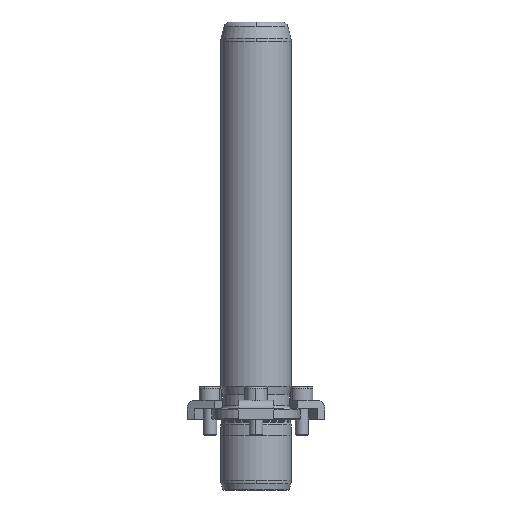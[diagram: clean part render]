
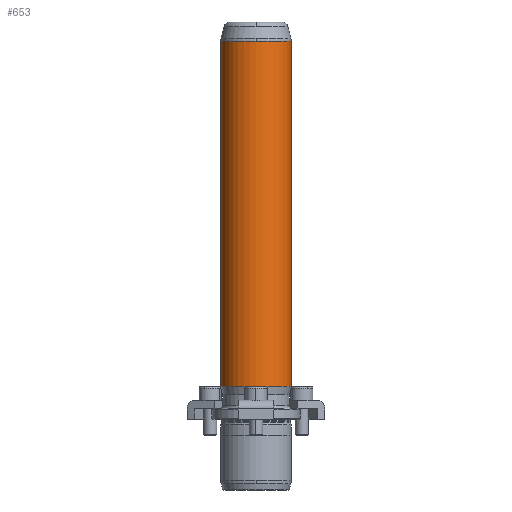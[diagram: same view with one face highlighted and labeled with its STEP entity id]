
A CAD part, front view. The second image highlights one B-rep face of the part: STEP entity #653.
In plain terms, the highlighted cylindrical face has radius 16 mm (diameter 32 mm), a partial arc.
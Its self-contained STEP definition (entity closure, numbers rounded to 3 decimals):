
#566=CARTESIAN_POINT('',(0.0,-16.,171.342));
#567=VERTEX_POINT('',#566);
#594=CARTESIAN_POINT('',(-16.0,0.,171.342));
#595=VERTEX_POINT('',#594);
#603=CARTESIAN_POINT('',(0.0,0.,171.342));
#604=DIRECTION('',(0.0,0.0,1.0));
#605=DIRECTION('',(1.0,0.0,0.0));
#606=AXIS2_PLACEMENT_3D('',#603,#604,#605);
#607=CIRCLE('',#606,16.0);
#608=EDGE_CURVE('',#595,#567,#607,.T.);
#613=CARTESIAN_POINT('',(0.0,0.,93.171));
#614=DIRECTION('',(0.0,0.,1.0));
#615=DIRECTION('',(1.0,0.0,0.0));
#616=AXIS2_PLACEMENT_3D('',#613,#614,#615);
#617=CYLINDRICAL_SURFACE('',#616,16.0);
#618=CARTESIAN_POINT('',(16.0,0.,171.342));
#619=VERTEX_POINT('',#618);
#620=CARTESIAN_POINT('',(16.0,0.,15.0));
#621=VERTEX_POINT('',#620);
#622=CARTESIAN_POINT('',(16.0,0.,171.342));
#623=DIRECTION('',(0.0,0.0,-1.0));
#624=VECTOR('',#623,156.342);
#625=LINE('',#622,#624);
#626=EDGE_CURVE('',#619,#621,#625,.T.);
#627=ORIENTED_EDGE('',*,*,#626,.F.);
#628=CARTESIAN_POINT('',(0.0,0.,171.342));
#629=DIRECTION('',(0.0,0.0,1.0));
#630=DIRECTION('',(1.0,0.0,0.0));
#631=AXIS2_PLACEMENT_3D('',#628,#629,#630);
#632=CIRCLE('',#631,16.0);
#633=EDGE_CURVE('',#567,#619,#632,.T.);
#634=ORIENTED_EDGE('',*,*,#633,.F.);
#635=ORIENTED_EDGE('',*,*,#608,.F.);
#636=CARTESIAN_POINT('',(-16.0,0.,15.0));
#637=VERTEX_POINT('',#636);
#638=CARTESIAN_POINT('',(-16.0,0.,171.342));
#639=DIRECTION('',(0.0,0.0,-1.0));
#640=VECTOR('',#639,156.342);
#641=LINE('',#638,#640);
#642=EDGE_CURVE('',#595,#637,#641,.T.);
#643=ORIENTED_EDGE('',*,*,#642,.T.);
#644=CARTESIAN_POINT('',(0.0,0.,15.0));
#645=DIRECTION('',(0.0,0.0,1.0));
#646=DIRECTION('',(1.0,0.0,0.0));
#647=AXIS2_PLACEMENT_3D('',#644,#645,#646);
#648=CIRCLE('',#647,16.0);
#649=EDGE_CURVE('',#637,#621,#648,.T.);
#650=ORIENTED_EDGE('',*,*,#649,.T.);
#651=EDGE_LOOP('',(#627,#634,#635,#643,#650));
#652=FACE_OUTER_BOUND('',#651,.T.);
#653=ADVANCED_FACE('',(#652),#617,.T.);
